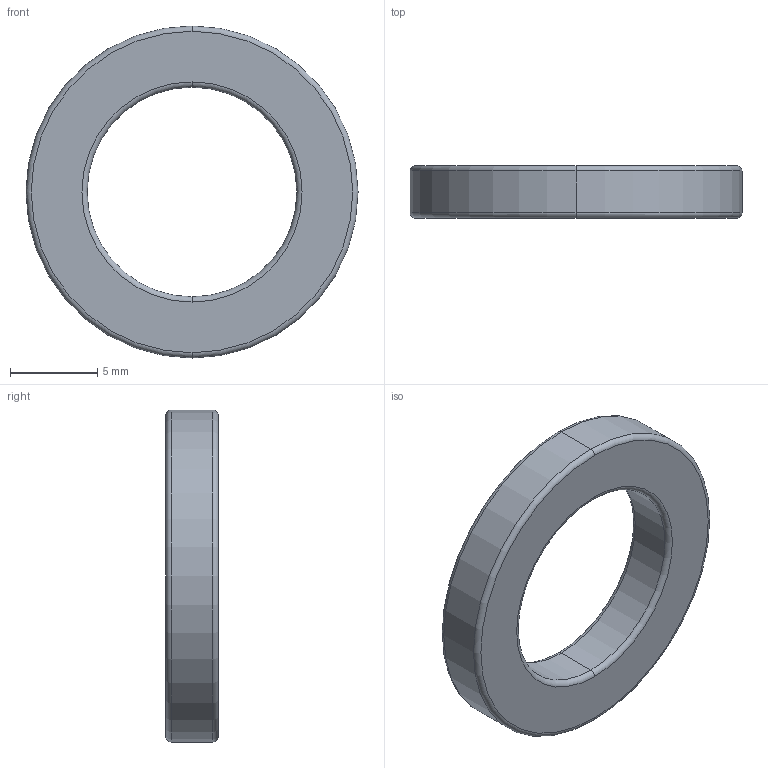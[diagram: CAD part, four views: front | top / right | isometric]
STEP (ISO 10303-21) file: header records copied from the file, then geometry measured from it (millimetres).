
FILE_DESCRIPTION (( 'STEP AP203' ), '1' );
FILE_NAME ('MAG003_Magnet_D19-d12-w3.STEP', '2017-08-10T07:54:55', ( '' ), ( '' ), 'SwSTEP 2.0', 'SolidWorks 2016', '' );
FILE_SCHEMA (( 'CONFIG_CONTROL_DESIGN' ));
Length unit declared in the file: millimetre
Products named in the file (1): MAG003_Magnet_D19-d12-w3
Bounding box: 19 x 3 x 19 mm (x, y, z)
Volume: 507.5 mm3; surface area: 608 mm2
Topology: 1 solids, 1 shells, 14 faces, 28 edges, 16 vertices
Faces by surface type: torus 8, cylinder 4, plane 2
Entity records: 453 total; most frequent: DIRECTION 82, CARTESIAN_POINT 59, ORIENTED_EDGE 56, AXIS2_PLACEMENT_3D 39, EDGE_CURVE 28, CIRCLE 24, EDGE_LOOP 16, VERTEX_POINT 16
